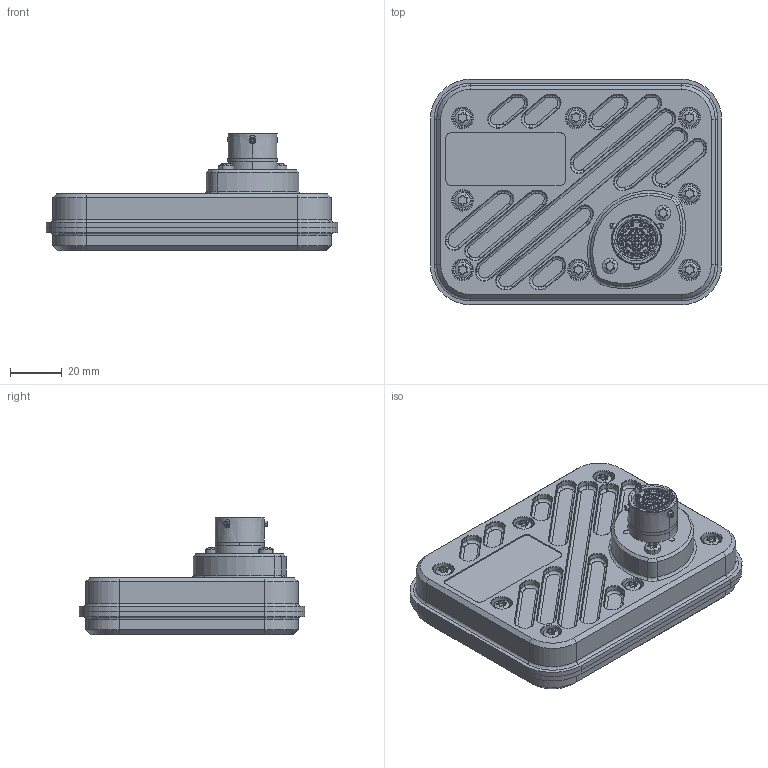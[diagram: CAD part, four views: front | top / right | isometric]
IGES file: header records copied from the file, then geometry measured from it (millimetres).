
Start section: START RECORD GO HERE.
Global section: file name: MCH-T Assembly.igs; native system: DASSAULT SYSTEMES CATIA V5 R19 - www.3ds.com; preprocessor: CATIA Version 5 Release 19 SP 9 ; author: mark.labudek; organization: MAPRECISION; date: 20251124.091906; units: millimetre
Bounding box: 113 x 87.5 x 45.65 mm (x, y, z)
Surface area: 57310.8 mm2 (no closed solid volume)
Topology: 0 solids, 0 shells, 1271 faces, 5746 edges, 5734 vertices
Faces by surface type: revolution 958, plane 313
